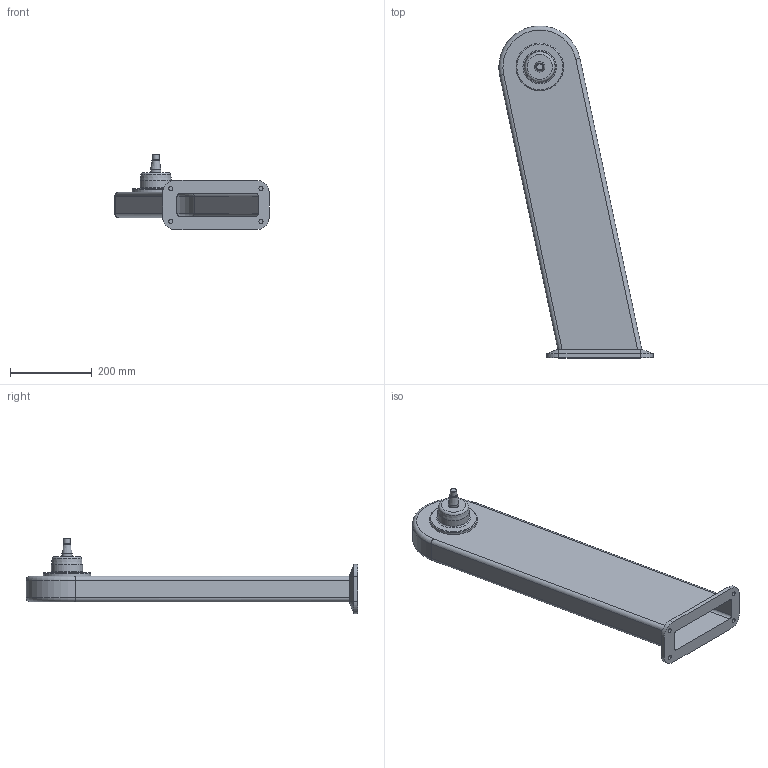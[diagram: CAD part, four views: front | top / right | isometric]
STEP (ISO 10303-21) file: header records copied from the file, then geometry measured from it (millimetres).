
FILE_DESCRIPTION (( 'STEP AP214' ), '1' );
FILE_NAME ('WP800_H710_-12.STEP', '2014-06-26T09:20:40', ( '' ), ( '' ), 'SwSTEP 2.0', 'SolidWorks 2014', '' );
FILE_SCHEMA (( 'AUTOMOTIVE_DESIGN' ));
Length unit declared in the file: millimetre
Products named in the file (1): WP800_H710_-12
Bounding box: 376.6 x 809.94 x 183.29 mm (x, y, z)
Volume: 1795847.7 mm3; surface area: 870210.4 mm2
Topology: 1 solids, 1 shells, 68 faces, 141 edges, 85 vertices
Faces by surface type: plane 26, cylinder 25, cone 10, torus 7
Full cylindrical faces by diameter (mm): 10 x4, 14.5 x1, 16 x1, 25 x3, 76 x1, 116 x1
Entity records: 1724 total; most frequent: DIRECTION 308, CARTESIAN_POINT 299, ORIENTED_EDGE 242, AXIS2_PLACEMENT_3D 126, EDGE_CURVE 121, EDGE_LOOP 100, VERTEX_POINT 85, FACE_OUTER_BOUND 82
